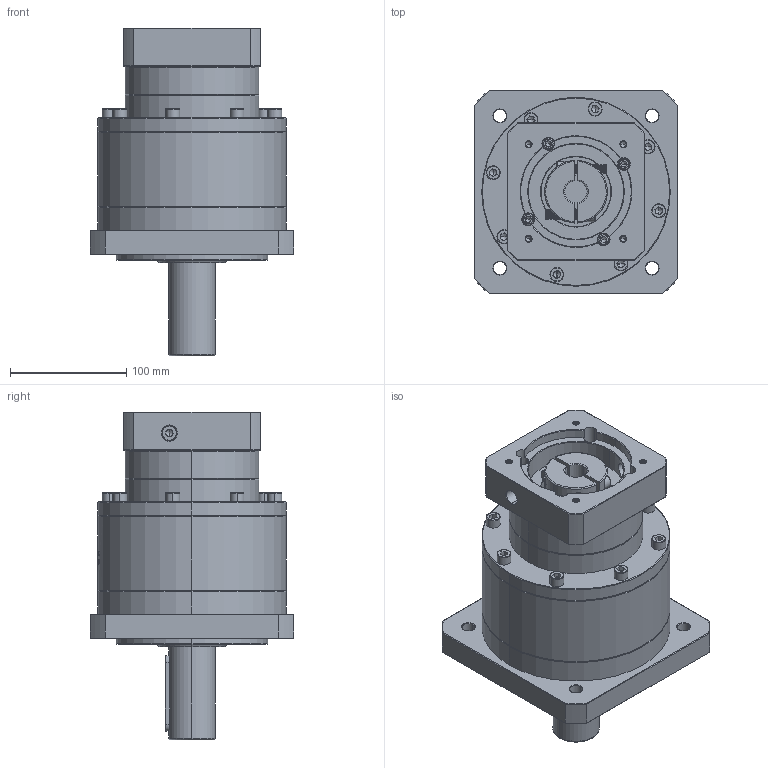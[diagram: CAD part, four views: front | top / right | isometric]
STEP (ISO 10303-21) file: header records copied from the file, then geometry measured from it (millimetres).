
FILE_DESCRIPTION (( 'STEP AP214' ), '1' );
FILE_NAME ('ZF160-D40-L2-19-95-115-M6.step', '2023-03-22T03:55:52', ( '' ), ( '' ), 'SwSTEP 2.0', 'SolidWorks 2016', '' );
FILE_SCHEMA (( 'AUTOMOTIVE_DESIGN' ));
Length unit declared in the file: millimetre
Products named in the file (1): ZF160-D40-L2-19-95-115-M6
Bounding box: 175 x 175 x 281.7 mm (x, y, z)
Volume: 3494788.9 mm3; surface area: 257826.6 mm2
Topology: 6 solids, 6 shells, 1873 faces, 4756 edges, 3005 vertices
Faces by surface type: plane 746, cylinder 483, cone 374, bspline 232, torus 38
Entity records: 99335 total; most frequent: CARTESIAN_POINT 35870, ORIENTED_EDGE 9404, DIRECTION 8260, EDGE_CURVE 4702, VERTEX_POINT 3005, AXIS2_PLACEMENT_3D 2878, LINE 2504, VECTOR 2504
